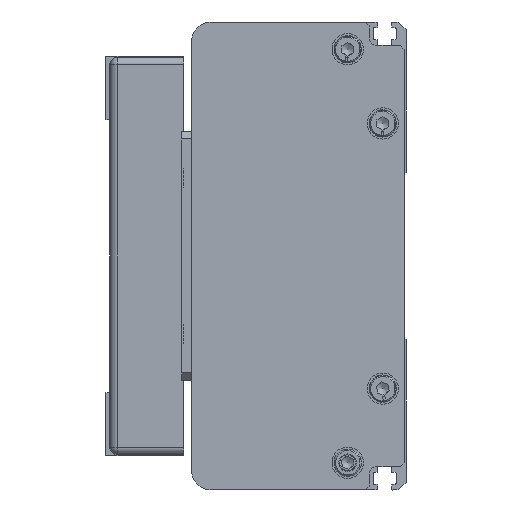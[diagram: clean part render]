
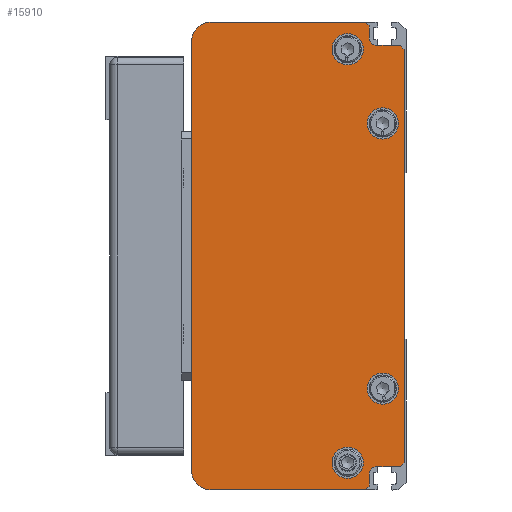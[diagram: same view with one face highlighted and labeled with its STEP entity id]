
A CAD part, left-side view. The second image highlights one B-rep face of the part: STEP entity #15910.
In plain terms, the highlighted planar face has unit normal (-1, 0, 0) as drawn and (0, 0, -1) by its records, which use the part's own axes.
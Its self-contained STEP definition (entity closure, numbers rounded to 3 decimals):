
#834=FACE_BOUND('',#2629,.T.);
#835=FACE_BOUND('',#2630,.T.);
#836=FACE_BOUND('',#2631,.T.);
#837=FACE_BOUND('',#2632,.T.);
#1156=CIRCLE('',#17050,5.);
#1157=CIRCLE('',#17052,5.);
#1158=CIRCLE('',#17053,2.);
#1159=CIRCLE('',#17054,2.);
#1160=CIRCLE('',#17055,4.);
#1161=CIRCLE('',#17056,4.);
#1162=CIRCLE('',#17057,4.);
#1163=CIRCLE('',#17058,4.);
#1592=FACE_OUTER_BOUND('',#2628,.T.);
#2628=EDGE_LOOP('',(#10962,#10963,#10964,#10965,#10966,#10967,#10968,#10969,
#10970,#10971,#10972,#10973,#10974,#10975,#10976,#10977));
#2629=EDGE_LOOP('',(#10978));
#2630=EDGE_LOOP('',(#10979));
#2631=EDGE_LOOP('',(#10980));
#2632=EDGE_LOOP('',(#10981));
#3873=LINE('',#22773,#5402);
#3874=LINE('',#22775,#5403);
#3875=LINE('',#22778,#5404);
#3876=LINE('',#22780,#5405);
#3877=LINE('',#22782,#5406);
#3878=LINE('',#22784,#5407);
#3879=LINE('',#22788,#5408);
#3880=LINE('',#22790,#5409);
#3881=LINE('',#22792,#5410);
#3882=LINE('',#22794,#5411);
#3883=LINE('',#22796,#5412);
#3884=LINE('',#22799,#5413);
#5402=VECTOR('',#18594,1.414);
#5403=VECTOR('',#18595,39.5);
#5404=VECTOR('',#18598,110.);
#5405=VECTOR('',#18599,39.5);
#5406=VECTOR('',#18600,1.414);
#5407=VECTOR('',#18601,3.);
#5408=VECTOR('',#18604,6.);
#5409=VECTOR('',#18605,1.414);
#5410=VECTOR('',#18606,106.);
#5411=VECTOR('',#18607,1.414);
#5412=VECTOR('',#18608,6.);
#5413=VECTOR('',#18611,3.);
#6969=VERTEX_POINT('',#22765);
#6970=VERTEX_POINT('',#22767);
#6971=VERTEX_POINT('',#22771);
#6972=VERTEX_POINT('',#22772);
#6973=VERTEX_POINT('',#22774);
#6974=VERTEX_POINT('',#22776);
#6975=VERTEX_POINT('',#22779);
#6976=VERTEX_POINT('',#22781);
#6977=VERTEX_POINT('',#22783);
#6978=VERTEX_POINT('',#22785);
#6979=VERTEX_POINT('',#22787);
#6980=VERTEX_POINT('',#22789);
#6981=VERTEX_POINT('',#22791);
#6982=VERTEX_POINT('',#22793);
#6983=VERTEX_POINT('',#22795);
#6984=VERTEX_POINT('',#22797);
#6985=VERTEX_POINT('',#22800);
#6986=VERTEX_POINT('',#22802);
#6987=VERTEX_POINT('',#22804);
#6988=VERTEX_POINT('',#22806);
#8563=EDGE_CURVE('',#6969,#6970,#1156,.T.);
#8565=EDGE_CURVE('',#6971,#6972,#3873,.T.);
#8566=EDGE_CURVE('',#6971,#6973,#3874,.T.);
#8567=EDGE_CURVE('',#6974,#6973,#1157,.T.);
#8568=EDGE_CURVE('',#6974,#6970,#3875,.T.);
#8569=EDGE_CURVE('',#6969,#6975,#3876,.T.);
#8570=EDGE_CURVE('',#6976,#6975,#3877,.T.);
#8571=EDGE_CURVE('',#6976,#6977,#3878,.T.);
#8572=EDGE_CURVE('',#6977,#6978,#1158,.T.);
#8573=EDGE_CURVE('',#6978,#6979,#3879,.T.);
#8574=EDGE_CURVE('',#6980,#6979,#3880,.T.);
#8575=EDGE_CURVE('',#6980,#6981,#3881,.T.);
#8576=EDGE_CURVE('',#6982,#6981,#3882,.T.);
#8577=EDGE_CURVE('',#6982,#6983,#3883,.T.);
#8578=EDGE_CURVE('',#6983,#6984,#1159,.T.);
#8579=EDGE_CURVE('',#6984,#6972,#3884,.T.);
#8580=EDGE_CURVE('',#6985,#6985,#1160,.T.);
#8581=EDGE_CURVE('',#6986,#6986,#1161,.T.);
#8582=EDGE_CURVE('',#6987,#6987,#1162,.T.);
#8583=EDGE_CURVE('',#6988,#6988,#1163,.T.);
#10962=ORIENTED_EDGE('',*,*,#8565,.F.);
#10963=ORIENTED_EDGE('',*,*,#8566,.T.);
#10964=ORIENTED_EDGE('',*,*,#8567,.F.);
#10965=ORIENTED_EDGE('',*,*,#8568,.T.);
#10966=ORIENTED_EDGE('',*,*,#8563,.F.);
#10967=ORIENTED_EDGE('',*,*,#8569,.T.);
#10968=ORIENTED_EDGE('',*,*,#8570,.F.);
#10969=ORIENTED_EDGE('',*,*,#8571,.T.);
#10970=ORIENTED_EDGE('',*,*,#8572,.T.);
#10971=ORIENTED_EDGE('',*,*,#8573,.T.);
#10972=ORIENTED_EDGE('',*,*,#8574,.F.);
#10973=ORIENTED_EDGE('',*,*,#8575,.T.);
#10974=ORIENTED_EDGE('',*,*,#8576,.F.);
#10975=ORIENTED_EDGE('',*,*,#8577,.T.);
#10976=ORIENTED_EDGE('',*,*,#8578,.T.);
#10977=ORIENTED_EDGE('',*,*,#8579,.T.);
#10978=ORIENTED_EDGE('',*,*,#8580,.T.);
#10979=ORIENTED_EDGE('',*,*,#8581,.T.);
#10980=ORIENTED_EDGE('',*,*,#8582,.T.);
#10981=ORIENTED_EDGE('',*,*,#8583,.T.);
#15282=PLANE('',#17051);
#15910=ADVANCED_FACE('',(#1592,#834,#835,#836,#837),#15282,.F.);
#17050=AXIS2_PLACEMENT_3D('',#22768,#18589,#18590);
#17051=AXIS2_PLACEMENT_3D('',#22770,#18592,#18593);
#17052=AXIS2_PLACEMENT_3D('',#22777,#18596,#18597);
#17053=AXIS2_PLACEMENT_3D('',#22786,#18602,#18603);
#17054=AXIS2_PLACEMENT_3D('',#22798,#18609,#18610);
#17055=AXIS2_PLACEMENT_3D('',#22801,#18612,#18613);
#17056=AXIS2_PLACEMENT_3D('',#22803,#18614,#18615);
#17057=AXIS2_PLACEMENT_3D('',#22805,#18616,#18617);
#17058=AXIS2_PLACEMENT_3D('',#22807,#18618,#18619);
#18589=DIRECTION('center_axis',(0.,0.,
1.));
#18590=DIRECTION('ref_axis',(0.707,0.707,0.));
#18592=DIRECTION('center_axis',(0.,0.,
1.));
#18593=DIRECTION('ref_axis',(-1.,-0.018,0.));
#18594=DIRECTION('',(0.707,-0.707,0.));
#18595=DIRECTION('',(0.,1.,0.));
#18596=DIRECTION('center_axis',(0.,0.,
1.));
#18597=DIRECTION('ref_axis',(-0.707,0.707,0.));
#18598=DIRECTION('',(1.,0.,0.));
#18599=DIRECTION('',(0.,-1.,0.));
#18600=DIRECTION('',(0.707,0.707,0.));
#18601=DIRECTION('',(-1.,0.,0.));
#18602=DIRECTION('center_axis',(0.,0.,
1.));
#18603=DIRECTION('ref_axis',(0.,-1.,0.));
#18604=DIRECTION('',(0.,-1.,0.));
#18605=DIRECTION('',(0.707,0.707,0.));
#18606=DIRECTION('',(-1.,0.,0.));
#18607=DIRECTION('',(0.707,-0.707,0.));
#18608=DIRECTION('',(0.,1.,0.));
#18609=DIRECTION('center_axis',(0.,0.,
1.));
#18610=DIRECTION('ref_axis',(1.,0.,0.));
#18611=DIRECTION('',(-1.,0.,0.));
#18612=DIRECTION('center_axis',(0.,0.,
1.));
#18613=DIRECTION('ref_axis',(0.,1.,0.));
#18614=DIRECTION('center_axis',(0.,0.,
1.));
#18615=DIRECTION('ref_axis',(0.,1.,0.));
#18616=DIRECTION('center_axis',(0.,0.,
1.));
#18617=DIRECTION('ref_axis',(0.,1.,0.));
#18618=DIRECTION('center_axis',(0.,0.,
1.));
#18619=DIRECTION('ref_axis',(0.,1.,0.));
#22765=CARTESIAN_POINT('',(124.75,50.75,-1042.5));
#22767=CARTESIAN_POINT('',(119.75,55.75,-1042.5));
#22768=CARTESIAN_POINT('Origin',(119.75,50.75,-1042.5));
#22770=CARTESIAN_POINT('Origin',(64.75,28.5,-1042.5));
#22771=CARTESIAN_POINT('',(4.75,11.25,-1042.5));
#22772=CARTESIAN_POINT('',(5.75,10.25,-1042.5));
#22773=CARTESIAN_POINT('',(4.75,11.25,-1042.5));
#22774=CARTESIAN_POINT('',(4.75,50.75,-1042.5));
#22775=CARTESIAN_POINT('',(4.75,11.25,-1042.5));
#22776=CARTESIAN_POINT('',(9.75,55.75,-1042.5));
#22777=CARTESIAN_POINT('Origin',(9.75,50.75,-1042.5));
#22778=CARTESIAN_POINT('',(9.75,55.75,-1042.5));
#22779=CARTESIAN_POINT('',(124.75,11.25,-1042.5));
#22780=CARTESIAN_POINT('',(124.75,50.75,-1042.5));
#22781=CARTESIAN_POINT('',(123.75,10.25,-1042.5));
#22782=CARTESIAN_POINT('',(123.75,10.25,-1042.5));
#22783=CARTESIAN_POINT('',(120.75,10.25,-1042.5));
#22784=CARTESIAN_POINT('',(123.75,10.25,-1042.5));
#22785=CARTESIAN_POINT('',(118.75,8.25,-1042.5));
#22786=CARTESIAN_POINT('Origin',(120.75,8.25,-1042.5));
#22787=CARTESIAN_POINT('',(118.75,2.25,-1042.5));
#22788=CARTESIAN_POINT('',(118.75,8.25,-1042.5));
#22789=CARTESIAN_POINT('',(117.75,1.25,-1042.5));
#22790=CARTESIAN_POINT('',(117.75,1.25,-1042.5));
#22791=CARTESIAN_POINT('',(11.75,1.25,-1042.5));
#22792=CARTESIAN_POINT('',(117.75,1.25,-1042.5));
#22793=CARTESIAN_POINT('',(10.75,2.25,-1042.5));
#22794=CARTESIAN_POINT('',(10.75,2.25,-1042.5));
#22795=CARTESIAN_POINT('',(10.75,8.25,-1042.5));
#22796=CARTESIAN_POINT('',(10.75,2.25,-1042.5));
#22797=CARTESIAN_POINT('',(8.75,10.25,-1042.5));
#22798=CARTESIAN_POINT('Origin',(8.75,8.25,-1042.5));
#22799=CARTESIAN_POINT('',(8.75,10.25,-1042.5));
#22800=CARTESIAN_POINT('',(30.75,10.75,-1042.5));
#22801=CARTESIAN_POINT('Origin',(30.75,6.75,-1042.5));
#22802=CARTESIAN_POINT('',(98.75,10.75,-1042.5));
#22803=CARTESIAN_POINT('Origin',(98.75,6.75,-1042.5));
#22804=CARTESIAN_POINT('',(11.75,19.75,-1042.5));
#22805=CARTESIAN_POINT('Origin',(11.75,15.75,-1042.5));
#22806=CARTESIAN_POINT('',(117.75,19.75,-1042.5));
#22807=CARTESIAN_POINT('Origin',(117.75,15.75,-1042.5));
